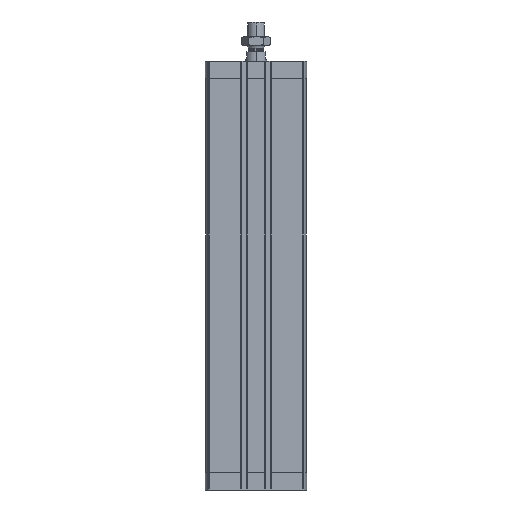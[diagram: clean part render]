
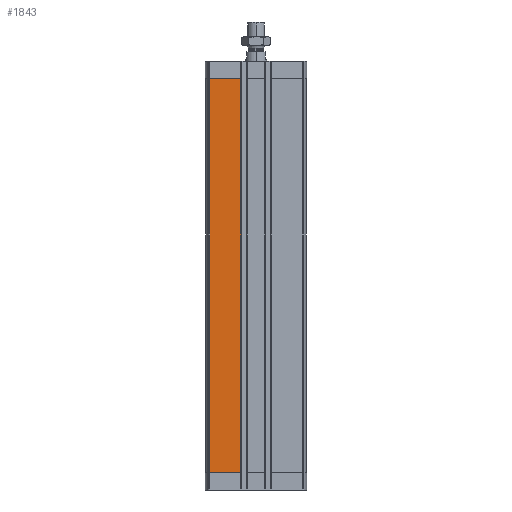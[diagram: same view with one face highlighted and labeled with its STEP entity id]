
A CAD part, left-side view. The second image highlights one B-rep face of the part: STEP entity #1843.
In plain terms, the highlighted planar face has unit normal (-1, 0, 0).
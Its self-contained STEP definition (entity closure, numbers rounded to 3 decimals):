
#1320 = VERTEX_POINT ( 'NONE', #7615 ) ;
#1500 = CARTESIAN_POINT ( 'NONE',  ( -47.5, 0., -16.5 ) ) ;
#1843 = ADVANCED_FACE ( 'NONE', ( #12379 ), #9430, .T. ) ;
#1865 = CARTESIAN_POINT ( 'NONE',  ( -47.5, 14.3, -387.5 ) ) ;
#2228 = CARTESIAN_POINT ( 'NONE',  ( -47.5, 43.743, -387.5 ) ) ;
#3211 = CARTESIAN_POINT ( 'NONE',  ( -47.5, 43.743, -387.5 ) ) ;
#3465 = DIRECTION ( 'NONE',  ( 0., -1., 0. ) ) ;
#3481 = CARTESIAN_POINT ( 'NONE',  ( -47.5, 43.743, -387.5 ) ) ;
#3898 = CARTESIAN_POINT ( 'NONE',  ( -47.5, 43.743, -16.5 ) ) ;
#4558 = ORIENTED_EDGE ( 'NONE', *, *, #8543, .T. ) ;
#5059 = VERTEX_POINT ( 'NONE', #13468 ) ;
#6155 = EDGE_CURVE ( 'NONE', #5059, #10574, #7874, .T. ) ;
#6944 = DIRECTION ( 'NONE',  ( 0., 0., 1. ) ) ;
#7537 = LINE ( 'NONE', #3481, #9304 ) ;
#7615 = CARTESIAN_POINT ( 'NONE',  ( -47.5, 43.743, -387.5 ) ) ;
#7874 = LINE ( 'NONE', #1865, #11592 ) ;
#8543 = EDGE_CURVE ( 'NONE', #14645, #1320, #7537, .T. ) ;
#8787 = EDGE_CURVE ( 'NONE', #10574, #14645, #12419, .T. ) ;
#8870 = EDGE_LOOP ( 'NONE', ( #15483, #11074, #12791, #4558 ) ) ;
#9107 = VECTOR ( 'NONE', #12686, 1000. ) ;
#9136 = VECTOR ( 'NONE', #3465, 1000. ) ;
#9201 = AXIS2_PLACEMENT_3D ( 'NONE', #3211, #14438, #6944 ) ;
#9304 = VECTOR ( 'NONE', #12202, 1000. ) ;
#9430 = PLANE ( 'NONE',  #9201 ) ;
#10574 = VERTEX_POINT ( 'NONE', #15552 ) ;
#10758 = DIRECTION ( 'NONE',  ( 0., 0., 1. ) ) ;
#11074 = ORIENTED_EDGE ( 'NONE', *, *, #6155, .T. ) ;
#11592 = VECTOR ( 'NONE', #10758, 1000. ) ;
#12202 = DIRECTION ( 'NONE',  ( 0., 0., -1. ) ) ;
#12379 = FACE_OUTER_BOUND ( 'NONE', #8870, .T. ) ;
#12419 = LINE ( 'NONE', #1500, #9107 ) ;
#12686 = DIRECTION ( 'NONE',  ( 0., 1., 0. ) ) ;
#12791 = ORIENTED_EDGE ( 'NONE', *, *, #8787, .T. ) ;
#13468 = CARTESIAN_POINT ( 'NONE',  ( -47.5, 14.3, -387.5 ) ) ;
#14438 = DIRECTION ( 'NONE',  ( -1., 0., 0. ) ) ;
#14645 = VERTEX_POINT ( 'NONE', #3898 ) ;
#14938 = EDGE_CURVE ( 'NONE', #1320, #5059, #15757, .T. ) ;
#15483 = ORIENTED_EDGE ( 'NONE', *, *, #14938, .T. ) ;
#15552 = CARTESIAN_POINT ( 'NONE',  ( -47.5, 14.3, -16.5 ) ) ;
#15757 = LINE ( 'NONE', #2228, #9136 ) ;
